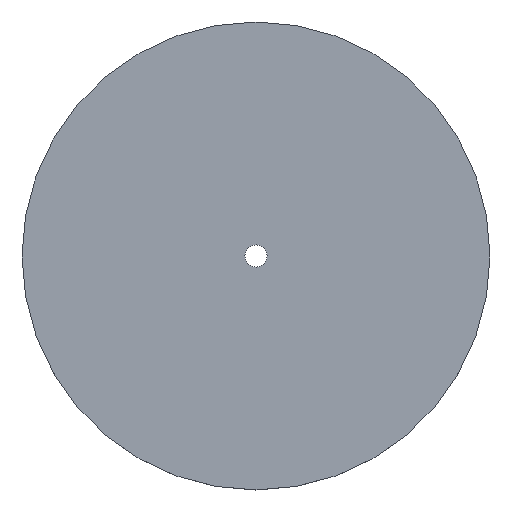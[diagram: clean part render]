
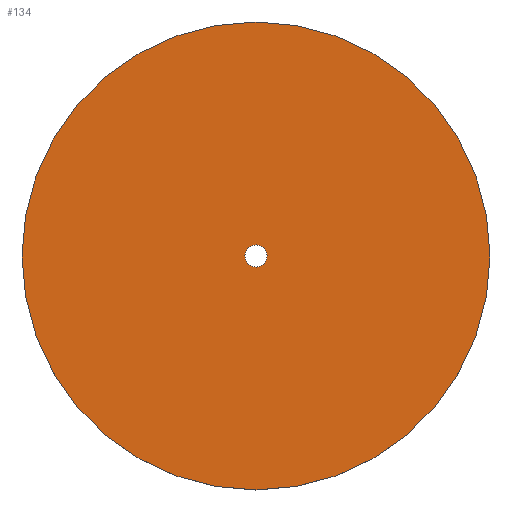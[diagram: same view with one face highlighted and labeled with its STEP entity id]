
A CAD part, top view. The second image highlights one B-rep face of the part: STEP entity #134.
In plain terms, the highlighted planar face has unit normal (0, 0, 1).
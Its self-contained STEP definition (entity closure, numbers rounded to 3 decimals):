
#29=CARTESIAN_POINT('',(0.,0.,0.7));
#30=DIRECTION('',(0.,0.,1.));
#31=DIRECTION('',(1.,0.,0.));
#32=AXIS2_PLACEMENT_3D('',#29,#30,#31);
#34=CARTESIAN_POINT('',(0.,0.,0.7));
#35=DIRECTION('',(0.,0.,1.));
#36=DIRECTION('',(-1.,0.,0.));
#37=AXIS2_PLACEMENT_3D('',#34,#35,#36);
#39=CARTESIAN_POINT('',(0.,0.,0.7));
#40=DIRECTION('',(0.,0.,1.));
#41=DIRECTION('',(1.,0.,0.));
#42=AXIS2_PLACEMENT_3D('',#39,#40,#41);
#44=CARTESIAN_POINT('',(0.,0.,0.7));
#45=DIRECTION('',(0.,0.,1.));
#46=DIRECTION('',(-1.,0.,0.));
#47=AXIS2_PLACEMENT_3D('',#44,#45,#46);
#61=CARTESIAN_POINT('',(6.35,0.,0.7));
#62=CARTESIAN_POINT('',(-6.35,0.,0.7));
#63=VERTEX_POINT('',#61);
#64=VERTEX_POINT('',#62);
#69=CARTESIAN_POINT('',(0.3,0.,0.7));
#70=CARTESIAN_POINT('',(-0.3,0.,0.7));
#71=VERTEX_POINT('',#69);
#72=VERTEX_POINT('',#70);
#119=CARTESIAN_POINT('',(0.,0.,0.7));
#120=DIRECTION('',(0.,0.,1.));
#121=DIRECTION('',(1.,0.,0.));
#122=AXIS2_PLACEMENT_3D('',#119,#120,#121);
#123=PLANE('',#122);
#124=ORIENTED_EDGE('',*,*,#99,.F.);
#125=ORIENTED_EDGE('',*,*,#113,.F.);
#126=EDGE_LOOP('',(#124,#125));
#127=FACE_OUTER_BOUND('',#126,.F.);
#129=ORIENTED_EDGE('',*,*,#128,.T.);
#131=ORIENTED_EDGE('',*,*,#130,.T.);
#132=EDGE_LOOP('',(#129,#131));
#133=FACE_BOUND('',#132,.F.);
#134=ADVANCED_FACE('',(#127,#133),#123,.T.);
#33=CIRCLE('',#32,6.35);
#38=CIRCLE('',#37,6.35);
#43=CIRCLE('',#42,0.3);
#48=CIRCLE('',#47,0.3);
#99=EDGE_CURVE('',#63,#64,#33,.T.);
#113=EDGE_CURVE('',#64,#63,#38,.T.);
#128=EDGE_CURVE('',#71,#72,#43,.T.);
#130=EDGE_CURVE('',#72,#71,#48,.T.);
